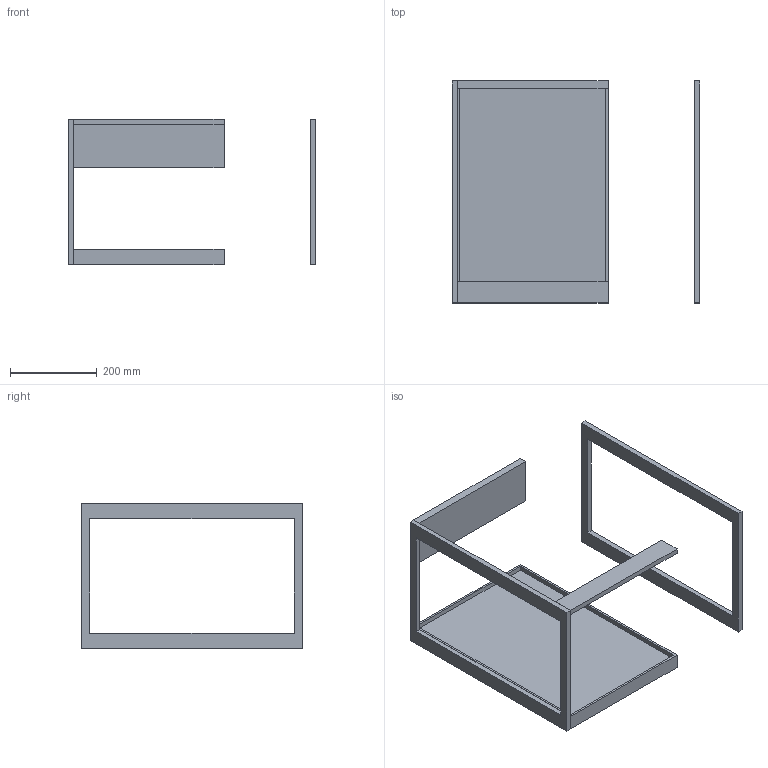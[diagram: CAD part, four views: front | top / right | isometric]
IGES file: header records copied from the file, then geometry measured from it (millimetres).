
Start section: Data from Parasolid IGES Translator 19.0.9, Copyright(c) 2006 Siemens PL M Software. All Rights Reserved.
Global section: file name: noorth-FJ-H 33,5 D 51,2 W 36_6694.igs; native system: By Siemens PLM Incorporated; preprocessor: XPlus GENERIC/IGES 19.0.9; author: Noname; organization: Noname; date: 20200507.120041; units: metre
Bounding box: 572 x 512 x 335 mm (x, y, z)
Volume: 6387075.5 mm3; surface area: 835752 mm2
Topology: 5 solids, 5 shells, 43 faces, 96 edges, 64 vertices
Faces by surface type: plane 43
